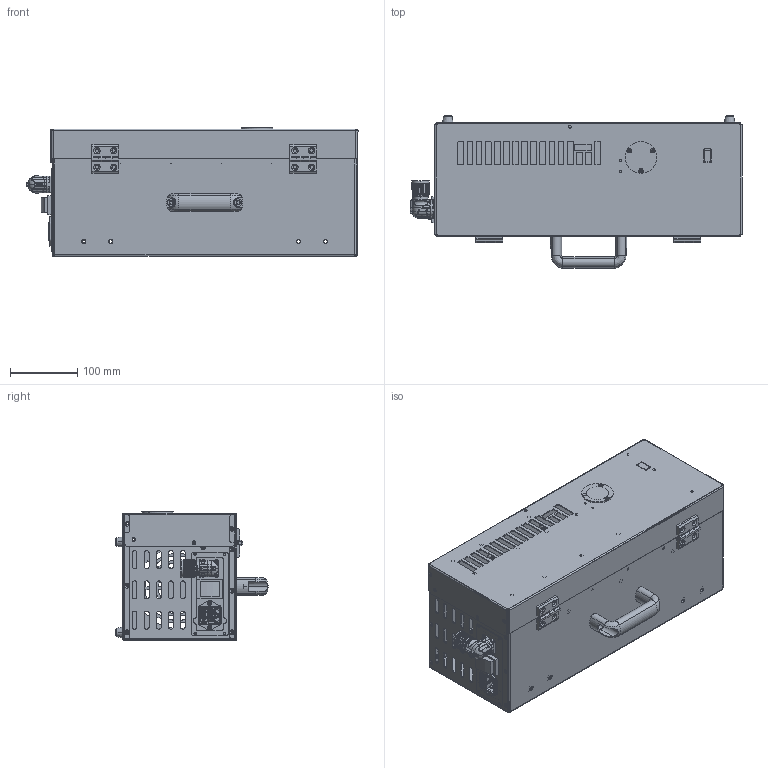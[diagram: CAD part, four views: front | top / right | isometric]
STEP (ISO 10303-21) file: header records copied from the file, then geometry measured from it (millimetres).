
FILE_DESCRIPTION (( 'STEP AP214' ), '1' );
FILE_NAME ('CS612 CS616 CS618-ERB2C600N_V2.0.STEP', '2025-07-24T10:07:36', ( '' ), ( '' ), 'SwSTEP 2.0', 'SolidWorks 2020', '' );
FILE_SCHEMA (( 'AUTOMOTIVE_DESIGN' ));
Length unit declared in the file: millimetre
Products named in the file (16): XAG61-L100; NA60200462_ERB1C2K0N连接器安装钣金-威浦_默认SM-FLAT-PATTERN; NA60401322_OEM眊极-C; ____.STEP; 226-1A.STEP; NA60200446_假蚾鍼踢裔啣; XG02-067-3.STEP; NA20200164_萇埭脣釱_4301.0501; NA20600043_船型开关 KCD4 四脚两档带灯 30A; XG02-067-3; NHY11-16; OEM眊极-C-眊极; NA20200223_瑤脣釱(譫)_M23XDK8ZL_; CS612 CS616 CS618-ERB2C600N_V2.0; OEM眊极-C-藷
Assembly tree (22 placements, depth 5):
  CS612 CS616 CS618-ERB2C600N_V2.0
    NA60401322_OEM眊极-C
      OEM眊极-C-眊极
      OEM眊极-C-藷
      XAG61-L100
      NHY11-16  x4
      XG02-067-3.STEP
        226-1A.STEP  x2
        ____.STEP
      XG02-067-3
        XG02-067-3.STEP
          226-1A.STEP  x2
          ____.STEP
    NA20200164_萇埭脣釱_4301.0501
    NA60200462_ERB1C2K0N连接器安装钣金-威浦_默认SM-FLAT-PATTERN
    NA60200446_假蚾鍼踢裔啣
    NA20600043_船型开关 KCD4 四脚两档带灯 30A
    NA20200223_瑤脣釱(譫)_M23XDK8ZL_
Bounding box: 494.8 x 226.94 x 191.5 mm (x, y, z)
Volume: 714145.8 mm3; surface area: 844129.3 mm2
Topology: 18 solids, 22 shells, 4989 faces, 13506 edges, 8722 vertices
Faces by surface type: plane 2170, cylinder 1553, bspline 807, cone 329, torus 100, sphere 30
Entity records: 204387 total; most frequent: CARTESIAN_POINT 77362, ORIENTED_EDGE 26022, DIRECTION 20727, EDGE_CURVE 13011, VERTEX_POINT 8447, LINE 7089, VECTOR 7089, AXIS2_PLACEMENT_3D 6819
